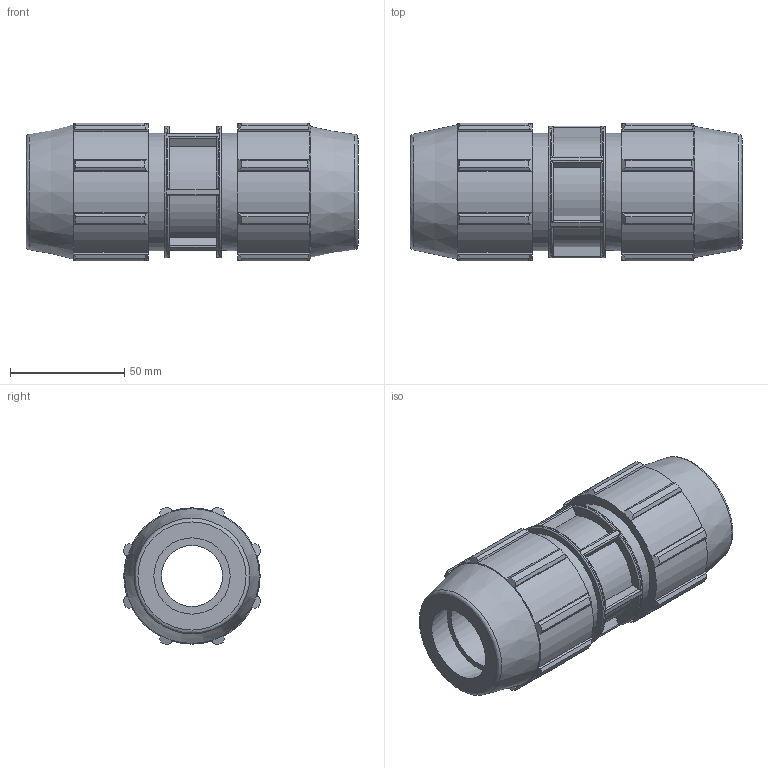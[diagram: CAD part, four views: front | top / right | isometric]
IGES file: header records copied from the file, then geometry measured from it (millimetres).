
Global section: file name: 0701M010.ipt; native system: Autodesk Inventor 2019; preprocessor: unknown; author: KIM; date: 20210826.124349; units: inch
Bounding box: 145.03 x 60.23 x 60.23 mm (x, y, z)
Volume: 235843.7 mm3; surface area: 50475.1 mm2
Topology: 1 solids, 1 shells, 193 faces, 546 edges, 368 vertices
Faces by surface type: plane 98, cylinder 53, revolution 22, cone 20
Full cylindrical faces by diameter (mm): 51.206 x2, 57.607 x1
